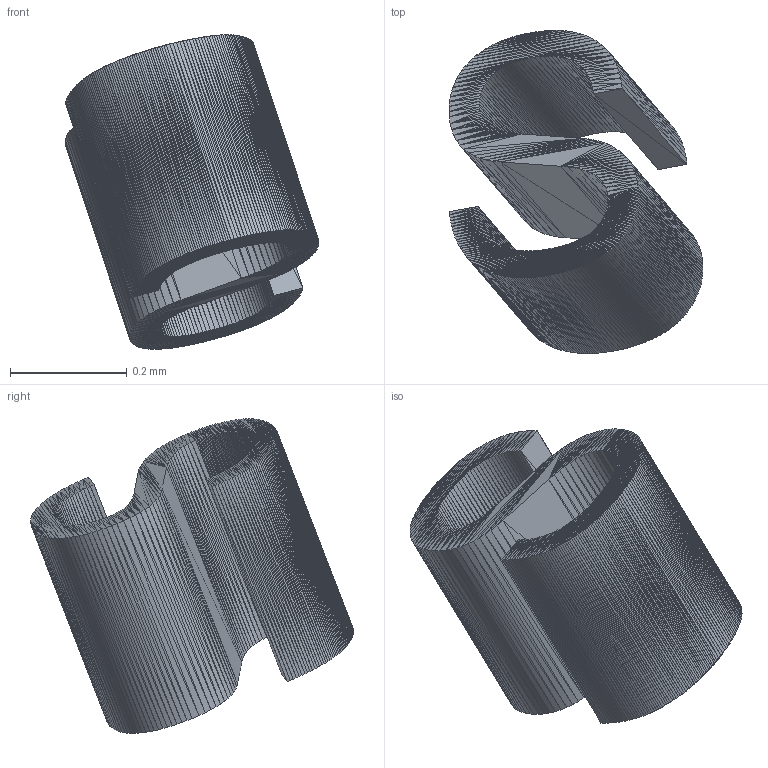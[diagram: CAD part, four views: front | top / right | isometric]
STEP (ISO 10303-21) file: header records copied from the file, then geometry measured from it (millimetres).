
FILE_DESCRIPTION(/* description */ (''),/* implementation_level */ '2;1');
FILE_NAME(/* name */ 'S.stp',/* time_stamp */ '2014-7-20T16:04:33.1499522',/* author */ ('EtsujiNomura'),/* organization */ (''),/* preprocessor_version */ 'InStep v2',/* originating_system */ 'InStep V2.3',/* authorisation */ '');
FILE_SCHEMA (('AUTOMOTIVE_DESIGN { 1 0 10303 214 1 1 1 1 }'));
Length unit declared in the file: millimetre
Products named in the file (1): None
Bounding box: 0.44 x 0.55 x 0.54 mm (x, y, z)
Volume: 0 mm3; surface area: 1 mm2
Topology: 1 solids, 1 shells, 1552 faces, 2328 edges, 778 vertices
Faces by surface type: plane 1552
Entity records: 23964 total; most frequent: ORIENTED_EDGE 4656, DIRECTION 3430, LINE 2328, EDGE_CURVE 2328, VECTOR 1876, AXIS2_PLACEMENT_3D 1553, EDGE_LOOP 1552, FACE_OUTER_BOUND 1552
